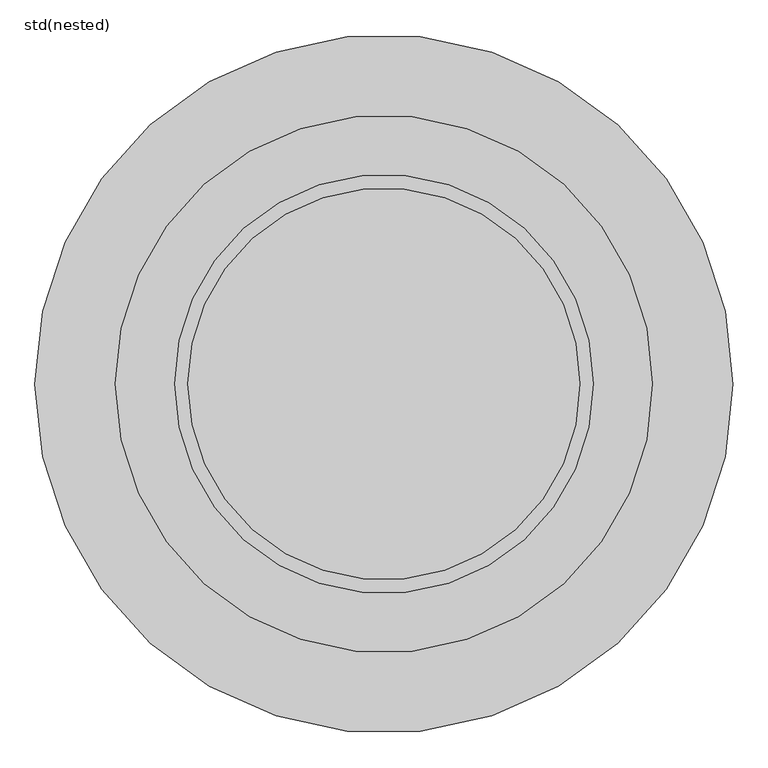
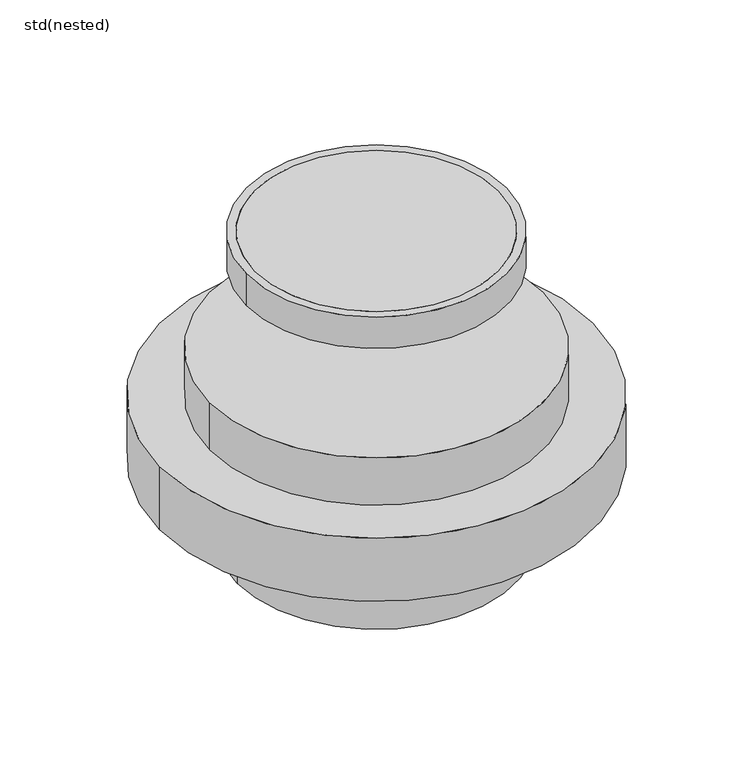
"""IFC4 building model written with IfcOpenShell, lengths in millimetres: unitary equipment geometry, ZZZ_do not use_ME_ST_WPB_top sections_plastic_ACO : std(nested)."""

from ifc_helpers import new_model, si_unit, point, frame, origin, origin_2d, place, context, project, spatial, polyline, circle_curve, trimmed, segment, composite_curve, outline, extrude, source, transform, mapped, element, save
from ifc_brep_helpers import plane_surface, cylinder_surface, revolved_surface, advanced_brep


def std_nested_9dcc50c5(model_context):
    return source(origin(), model_context, "Body", "SolidModel", [
        advanced_brep(
        [(-409.8623627, 0.0, -540.0), (409.8623627, 0.0, -540.0), (417.8623627, 0.0, -540.0), (-417.8623627, 0.0, -540.0), (-409.8623627, 0.0, -971.0), (409.8623627, 0.0, -971.0), (-417.8623627, 0.0, -971.0), (417.8623627, 0.0, -971.0)],
        [
            (0, 1, circle_curve(frame((0.0, 0.0, -540.0), z_axis=(0.0, 0.0, -1.0), x_axis=(1.0, 0.0, 0.0)), 409.8623627)),
            (1, 2),
            (2, 3, circle_curve(frame((0.0, 0.0, -540.0), z_axis=(0.0, 0.0, 1.0), x_axis=(1.0, 0.0, 0.0)), 417.8623627)),
            (3, 0),
            (1, 0, circle_curve(frame((0.0, 0.0, -540.0), z_axis=(0.0, 0.0, -1.0), x_axis=(1.0, 0.0, 0.0)), 409.8623627)),
            (3, 2, circle_curve(frame((0.0, 0.0, -540.0), z_axis=(0.0, 0.0, 1.0), x_axis=(1.0, 0.0, 0.0)), 417.8623627)),
            (4, 5, circle_curve(frame((0.0, 0.0, -971.0), z_axis=(0.0, 0.0, -1.0), x_axis=(1.0, 0.0, 0.0)), 409.8623627)),
            (5, 1),
            (0, 4),
            (5, 4, circle_curve(frame((0.0, 0.0, -971.0), z_axis=(0.0, 0.0, -1.0), x_axis=(1.0, 0.0, 0.0)), 409.8623627)),
            (6, 7, circle_curve(frame((0.0, 0.0, -971.0), z_axis=(0.0, 0.0, -1.0), x_axis=(1.0, 0.0, 0.0)), 417.8623627)),
            (7, 5),
            (4, 6),
            (7, 6, circle_curve(frame((0.0, 0.0, -971.0), z_axis=(0.0, 0.0, -1.0), x_axis=(1.0, 0.0, 0.0)), 417.8623627)),
            (2, 7),
            (6, 3),
        ],
        [
            plane_surface(frame((0.0, 0.0, -540.0), z_axis=(0.0, 0.0, 1.0), x_axis=(1.0, 0.0, 0.0))),
            revolved_surface(polyline([(409.8623627, 0.0, -540.0), (409.8623627, 0.0, -971.0)]), (0.0, 0.0, 100.0), (0.0, 0.0, 1.0)),
            plane_surface(frame((0.0, 0.0, -971.0), z_axis=(0.0, 0.0, -1.0), x_axis=(1.0, 0.0, 0.0))),
            cylinder_surface(frame((0.0, 0.0, 100.0), z_axis=(0.0, 0.0, 1.0), x_axis=(1.0, 0.0, 0.0)), 417.8623627),
        ],
        [
            (0, [[1, 2, 3, 4]]),
            (0, [[5, -4, 6, -2]]),
            (1, [[7, 8, -1, 9]]),
            (1, [[10, -9, -5, -8]]),
            (2, [[11, 12, -7, 13]]),
            (2, [[14, -13, -10, -12]]),
            (3, [[-3, 15, -11, 16]]),
            (3, [[-6, -16, -14, -15]]),
        ],
    ),
        extrude(outline(composite_curve([segment(trimmed(circle_curve(origin_2d(), 500.0), [point((-500.0, 0.0))], [point((500.0, 0.0))], False, "CARTESIAN"), True, "CONTINUOUS"), segment(trimmed(circle_curve(origin_2d(), 500.0), [point((500.0, 0.0))], [point((-500.0, 0.0))], False, "CARTESIAN"), True, "CONTINUOUS")], self_intersect=False)), frame((0.0, 0.0, -520.0), z_axis=(0.0, 0.0, 1.0), x_axis=(1.0, 0.0, 0.0)), (0.0, 0.0, 1.0), 150.0),
        extrude(outline(composite_curve([segment(trimmed(circle_curve(origin_2d(), 650.0), [point((-650.0, 0.0))], [point((650.0, 0.0))], False, "CARTESIAN"), True, "CONTINUOUS"), segment(trimmed(circle_curve(origin_2d(), 650.0), [point((650.0, 0.0))], [point((-650.0, 0.0))], False, "CARTESIAN"), True, "CONTINUOUS")], self_intersect=False), holes=[composite_curve([segment(trimmed(circle_curve(origin_2d(), 418.0), [point((-418.0, 0.0))], [point((418.0, 0.0))], True, "CARTESIAN"), True, "CONTINUOUS"), segment(trimmed(circle_curve(origin_2d(), 418.0), [point((418.0, 0.0))], [point((-418.0, 0.0))], True, "CARTESIAN"), True, "CONTINUOUS")], self_intersect=False)]), frame((0.0, 0.0, -720.0), z_axis=(0.0, 0.0, 1.0), x_axis=(1.0, 0.0, 0.0)), (0.0, 0.0, 1.0), 200.0),
        extrude(outline(composite_curve([segment(trimmed(circle_curve(origin_2d(), 365.0), [point((365.0, 0.0))], [point((-365.0, 0.0))], False, "CARTESIAN"), True, "CONTINUOUS"), segment(trimmed(circle_curve(origin_2d(), 365.0), [point((-365.0, 0.0))], [point((365.0, 0.0))], False, "CARTESIAN"), True, "CONTINUOUS")], self_intersect=False)), frame((0.0, 0.0, -100.0), z_axis=(0.0, 0.0, 1.0), x_axis=(1.0, 0.0, 0.0)), (0.0, 0.0, 1.0), 100.0),
        extrude(outline(composite_curve([segment(trimmed(circle_curve(origin_2d(), 390.0), [point((-390.0, 0.0))], [point((390.0, 0.0))], False, "CARTESIAN"), True, "CONTINUOUS"), segment(trimmed(circle_curve(origin_2d(), 390.0), [point((390.0, 0.0))], [point((-390.0, 0.0))], False, "CARTESIAN"), True, "CONTINUOUS")], self_intersect=False), holes=[composite_curve([segment(trimmed(circle_curve(origin_2d(), 365.0), [point((-365.0, 0.0))], [point((365.0, 0.0))], True, "CARTESIAN"), True, "CONTINUOUS"), segment(trimmed(circle_curve(origin_2d(), 365.0), [point((365.0, 0.0))], [point((-365.0, 0.0))], True, "CARTESIAN"), True, "CONTINUOUS")], self_intersect=False)]), frame((0.0, 0.0, -100.0), z_axis=(0.0, 0.0, 1.0), x_axis=(1.0, 0.0, 0.0)), (0.0, 0.0, 1.0), 100.0),
    ])


if __name__ == "__main__":
    model = new_model("IFC4")
    model_context = context("Model", 3, world=origin())
    ifc_project = project(units=[si_unit("LENGTHUNIT", "METRE", prefix="MILLI")], contexts=[model_context])
    site = spatial("IfcSite", under=ifc_project)
    building = spatial("IfcBuilding", under=site)
    placement = place(None, origin())
    std_nested_shape = std_nested_9dcc50c5(model_context)
    element("IfcUnitaryEquipment", 1, ObjectType="ZZZ_do not use_ME_ST_WPB_top sections_plastic_ACO : std(nested)", at=placement, inside=building, context=model_context, shape_type="MappedRepresentation", body=[
        mapped(std_nested_shape, transform((0.0, 0.0, 0.0), x_axis=(1.0, 0.0, 0.0), y_axis=(0.0, 1.0, 0.0), z_axis=(0.0, 0.0, 1.0))),
    ])
    save(model, "model.ifc")
